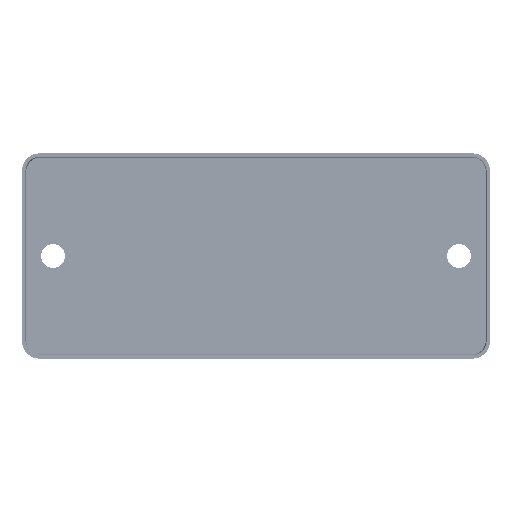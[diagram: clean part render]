
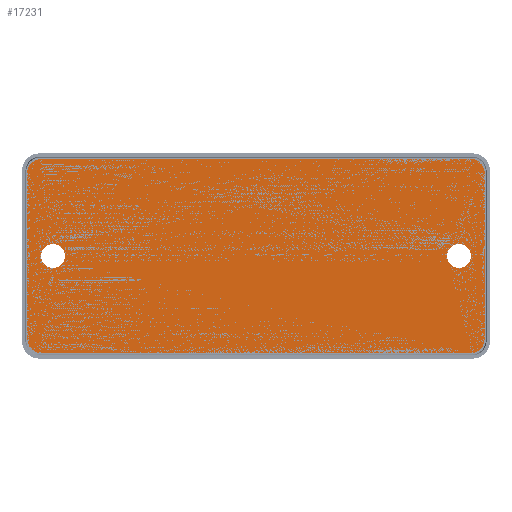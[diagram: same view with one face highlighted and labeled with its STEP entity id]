
A CAD part, front view. The second image highlights one B-rep face of the part: STEP entity #17231.
In plain terms, the highlighted planar face has unit normal (0, -1, 0) as drawn and (0, 0, -1) by its records, which use the part's own axes.
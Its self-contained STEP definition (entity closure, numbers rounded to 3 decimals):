
#16963=DIRECTION('',(1.,0.,0.));
#16964=VECTOR('',#16963,98.75);
#16965=CARTESIAN_POINT('',(-49.375,22.2,0.));
#16966=LINE('',#16965,#16964);
#16975=DIRECTION('',(0.,1.,0.));
#16976=VECTOR('',#16975,38.4);
#16977=CARTESIAN_POINT('',(-52.375,-19.2,0.));
#16978=LINE('',#16977,#16976);
#16979=CARTESIAN_POINT('',(-49.375,19.2,0.));
#16980=DIRECTION('',(0.,0.,1.));
#16981=DIRECTION('',(0.,1.,0.));
#16982=AXIS2_PLACEMENT_3D('',#16979,#16980,#16981);
#16984=CARTESIAN_POINT('',(-49.375,-19.2,0.));
#16985=DIRECTION('',(0.,0.,1.));
#16986=DIRECTION('',(-1.,0.,0.));
#16987=AXIS2_PLACEMENT_3D('',#16984,#16985,#16986);
#16989=CARTESIAN_POINT('',(49.375,-19.2,0.));
#16990=DIRECTION('',(0.,0.,1.));
#16991=DIRECTION('',(0.,-1.,0.));
#16992=AXIS2_PLACEMENT_3D('',#16989,#16990,#16991);
#16994=CARTESIAN_POINT('',(49.375,19.2,0.));
#16995=DIRECTION('',(0.,0.,1.));
#16996=DIRECTION('',(1.,0.,0.));
#16997=AXIS2_PLACEMENT_3D('',#16994,#16995,#16996);
#16999=CARTESIAN_POINT('',(46.5,0.,0.));
#17000=DIRECTION('',(0.,0.,-1.));
#17001=DIRECTION('',(1.,0.,0.));
#17002=AXIS2_PLACEMENT_3D('',#16999,#17000,#17001);
#17004=CARTESIAN_POINT('',(46.5,0.,0.));
#17005=DIRECTION('',(0.,0.,-1.));
#17006=DIRECTION('',(-1.,0.,0.));
#17007=AXIS2_PLACEMENT_3D('',#17004,#17005,#17006);
#17009=CARTESIAN_POINT('',(-46.5,0.,0.));
#17010=DIRECTION('',(0.,0.,-1.));
#17011=DIRECTION('',(1.,0.,0.));
#17012=AXIS2_PLACEMENT_3D('',#17009,#17010,#17011);
#17014=CARTESIAN_POINT('',(-46.5,0.,0.));
#17015=DIRECTION('',(0.,0.,-1.));
#17016=DIRECTION('',(-1.,0.,0.));
#17017=AXIS2_PLACEMENT_3D('',#17014,#17015,#17016);
#17019=DIRECTION('',(-1.,0.,0.));
#17020=VECTOR('',#17019,98.75);
#17021=CARTESIAN_POINT('',(49.375,-22.2,0.));
#17022=LINE('',#17021,#17020);
#17031=DIRECTION('',(0.,-1.,0.));
#17032=VECTOR('',#17031,38.4);
#17033=CARTESIAN_POINT('',(52.375,19.2,0.));
#17034=LINE('',#17033,#17032);
#17063=CARTESIAN_POINT('',(-49.375,-22.2,0.));
#17064=VERTEX_POINT('',#17063);
#17065=CARTESIAN_POINT('',(-52.375,-19.2,0.));
#17066=VERTEX_POINT('',#17065);
#17087=CARTESIAN_POINT('',(-49.375,22.2,0.));
#17088=VERTEX_POINT('',#17087);
#17089=CARTESIAN_POINT('',(49.375,22.2,0.));
#17090=VERTEX_POINT('',#17089);
#17091=CARTESIAN_POINT('',(-52.375,19.2,0.));
#17092=VERTEX_POINT('',#17091);
#17093=CARTESIAN_POINT('',(49.375,-22.2,0.));
#17094=VERTEX_POINT('',#17093);
#17095=CARTESIAN_POINT('',(52.375,-19.2,0.));
#17096=VERTEX_POINT('',#17095);
#17097=CARTESIAN_POINT('',(52.375,19.2,0.));
#17098=VERTEX_POINT('',#17097);
#17099=CARTESIAN_POINT('',(49.25,0.,0.));
#17100=CARTESIAN_POINT('',(43.75,0.,0.));
#17101=VERTEX_POINT('',#17099);
#17102=VERTEX_POINT('',#17100);
#17103=CARTESIAN_POINT('',(-43.75,0.,0.));
#17104=CARTESIAN_POINT('',(-49.25,0.,0.));
#17105=VERTEX_POINT('',#17103);
#17106=VERTEX_POINT('',#17104);
#17200=CARTESIAN_POINT('',(49.375,19.2,0.));
#17201=DIRECTION('',(0.,0.,-1.));
#17202=DIRECTION('',(-1.,0.,0.));
#17203=AXIS2_PLACEMENT_3D('',#17200,#17201,#17202);
#17204=PLANE('',#17203);
#17205=ORIENTED_EDGE('',*,*,#17181,.T.);
#17206=ORIENTED_EDGE('',*,*,#17193,.F.);
#17207=ORIENTED_EDGE('',*,*,#17116,.T.);
#17209=ORIENTED_EDGE('',*,*,#17208,.F.);
#17211=ORIENTED_EDGE('',*,*,#17210,.T.);
#17213=ORIENTED_EDGE('',*,*,#17212,.F.);
#17215=ORIENTED_EDGE('',*,*,#17214,.T.);
#17216=ORIENTED_EDGE('',*,*,#17165,.F.);
#17217=EDGE_LOOP('',(#17205,#17206,#17207,#17209,#17211,#17213,#17215,#17216));
#17218=FACE_OUTER_BOUND('',#17217,.F.);
#17220=ORIENTED_EDGE('',*,*,#17219,.T.);
#17222=ORIENTED_EDGE('',*,*,#17221,.T.);
#17223=EDGE_LOOP('',(#17220,#17222));
#17224=FACE_BOUND('',#17223,.F.);
#17226=ORIENTED_EDGE('',*,*,#17225,.T.);
#17228=ORIENTED_EDGE('',*,*,#17227,.T.);
#17229=EDGE_LOOP('',(#17226,#17228));
#17230=FACE_BOUND('',#17229,.F.);
#17231=ADVANCED_FACE('',(#17218,#17224,#17230),#17204,.T.);
#16983=CIRCLE('',#16982,3.);
#16988=CIRCLE('',#16987,3.);
#16993=CIRCLE('',#16992,3.);
#16998=CIRCLE('',#16997,3.);
#17003=CIRCLE('',#17002,2.75);
#17008=CIRCLE('',#17007,2.75);
#17013=CIRCLE('',#17012,2.75);
#17018=CIRCLE('',#17017,2.75);
#17116=EDGE_CURVE('',#17066,#17064,#16988,.T.);
#17165=EDGE_CURVE('',#17088,#17090,#16966,.T.);
#17181=EDGE_CURVE('',#17088,#17092,#16983,.T.);
#17193=EDGE_CURVE('',#17066,#17092,#16978,.T.);
#17208=EDGE_CURVE('',#17094,#17064,#17022,.T.);
#17210=EDGE_CURVE('',#17094,#17096,#16993,.T.);
#17212=EDGE_CURVE('',#17098,#17096,#17034,.T.);
#17214=EDGE_CURVE('',#17098,#17090,#16998,.T.);
#17219=EDGE_CURVE('',#17101,#17102,#17003,.T.);
#17221=EDGE_CURVE('',#17102,#17101,#17008,.T.);
#17225=EDGE_CURVE('',#17105,#17106,#17013,.T.);
#17227=EDGE_CURVE('',#17106,#17105,#17018,.T.);
